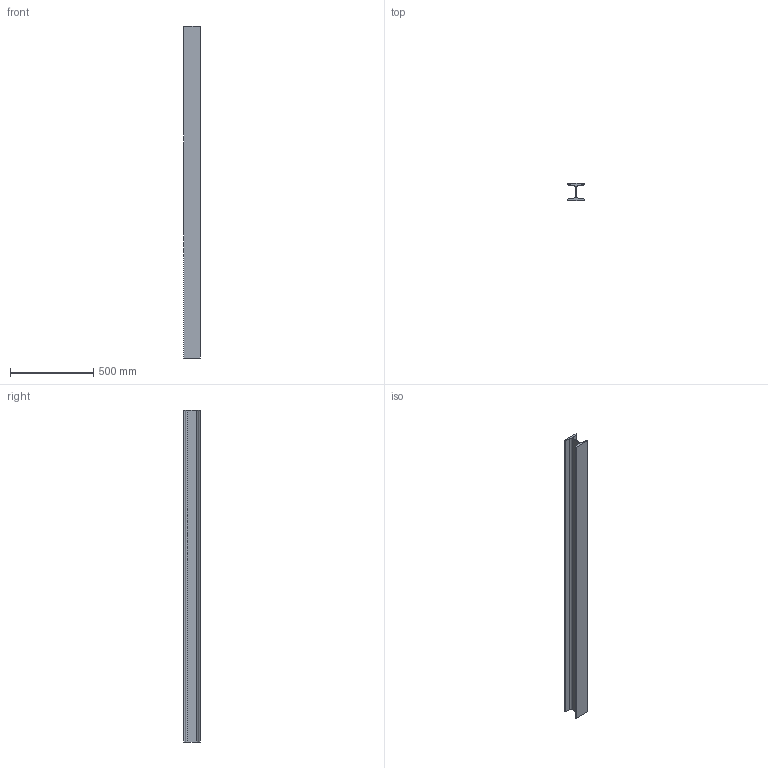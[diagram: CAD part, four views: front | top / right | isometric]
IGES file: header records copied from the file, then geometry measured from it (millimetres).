
Start section: SolidWorks IGES file using analytic representation for surfaces
Global section: file name: C:\Documents and Settings\Pc\Escritorio\Modelos 3D\Capítulo 3 (Pandeo)\PRACTICAS PROPUESTAS\Viga SC100.IGS; native system: SolidWorks 2010; preprocessor: SolidWorks 2010; author: Pc; date: 100623.113407; units: millimetre
Bounding box: 100 x 100 x 2000 mm (x, y, z)
Surface area: 1087678.5 mm2 (no closed solid volume)
Topology: 0 solids, 0 shells, 22 faces, 232 edges, 232 vertices
Faces by surface type: bspline 14, revolution 8
